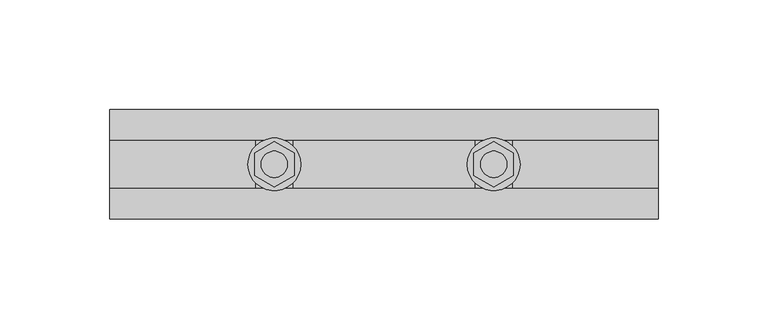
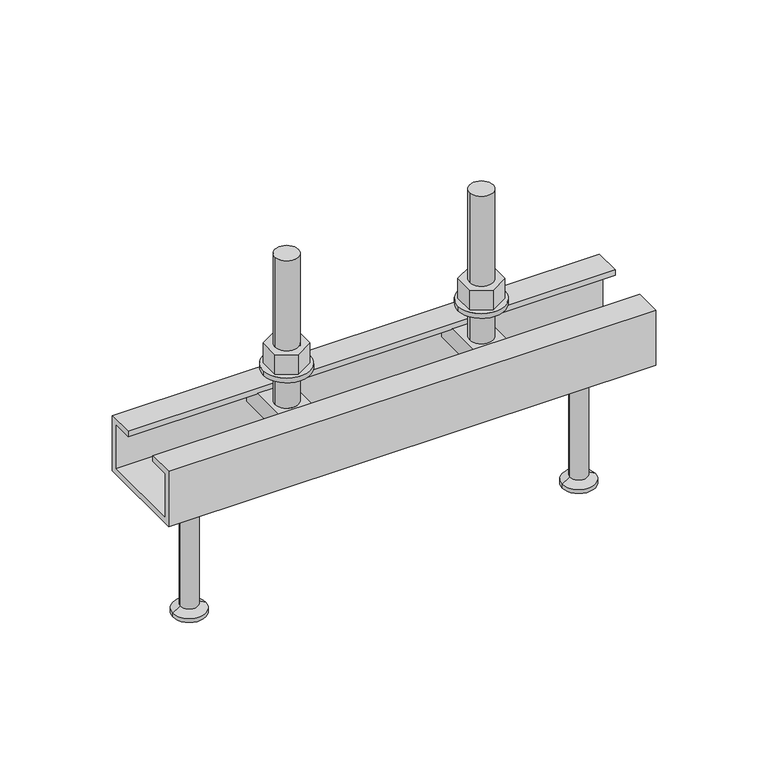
"""IFC4 building model written with IfcOpenShell, lengths in millimetres: fastener geometry, JTA-K JORDAHL® AnchorChannels : JTA-K L=250 mm."""

from ifc_helpers import new_model, si_unit, point, frame, frame_2d, origin, place, context, project, spatial, polyline, circle_curve, trimmed, segment, composite_curve, outline, extrude, source, transform, mapped, element, save
from ifc_brep_helpers import plane_surface, cylinder_surface, revolved_surface, advanced_brep


def fastener_9ad5a3d9(model_context):
    return source(origin(), model_context, "Body", "SolidModel", [
        extrude(outline(polyline([(175.0, -10.3923048), (166.0, -5.1961524), (166.0, 5.1961524), (175.0, 10.3923048), (184.0, 5.1961524), (184.0, -5.1961524), (175.0, -10.3923048)]), holes=[composite_curve([segment(trimmed(circle_curve(frame_2d((175.0, 0.0)), 6.0), [point((169.0, 0.0))], [point((181.0, 0.0))], True, "CARTESIAN"), True, "CONTINUOUS"), segment(trimmed(circle_curve(frame_2d((175.0, 0.0)), 6.0), [point((181.0, 0.0))], [point((169.0, 0.0))], True, "CARTESIAN"), True, "CONTINUOUS")], self_intersect=False)]), frame((0.0, 0.0, 17.5), z_axis=(0.0, 0.0, 1.0), x_axis=(1.0, 0.0, 0.0)), (0.0, 0.0, 1.0), 10.8),
        extrude(outline(composite_curve([segment(trimmed(circle_curve(frame_2d((175.0, 0.0)), 12.0), [point((163.0, 0.0))], [point((187.0, 0.0))], False, "CARTESIAN"), True, "CONTINUOUS"), segment(trimmed(circle_curve(frame_2d((175.0, 0.0)), 12.0), [point((187.0, 0.0))], [point((163.0, 0.0))], False, "CARTESIAN"), True, "CONTINUOUS")], self_intersect=False), holes=[composite_curve([segment(trimmed(circle_curve(frame_2d((175.0, 0.0)), 6.5), [point((168.5, 0.0))], [point((181.5, 0.0))], True, "CARTESIAN"), True, "CONTINUOUS"), segment(trimmed(circle_curve(frame_2d((175.0, 0.0)), 6.5), [point((181.5, 0.0))], [point((168.5, 0.0))], True, "CARTESIAN"), True, "CONTINUOUS")], self_intersect=False)]), frame((0.0, 0.0, 15.0), z_axis=(0.0, 0.0, 1.0), x_axis=(1.0, 0.0, 0.0)), (0.0, 0.0, 1.0), 2.5),
        extrude(outline(polyline([(75.0, -10.3923048), (66.0, -5.1961524), (66.0, 5.1961524), (75.0, 10.3923048), (84.0, 5.1961524), (84.0, -5.1961524), (75.0, -10.3923048)]), holes=[composite_curve([segment(trimmed(circle_curve(frame_2d((75.0, 0.0)), 6.0), [point((69.0, 0.0))], [point((81.0, 0.0))], True, "CARTESIAN"), True, "CONTINUOUS"), segment(trimmed(circle_curve(frame_2d((75.0, 0.0)), 6.0), [point((81.0, 0.0))], [point((69.0, 0.0))], True, "CARTESIAN"), True, "CONTINUOUS")], self_intersect=False)]), frame((0.0, 0.0, 17.5), z_axis=(0.0, 0.0, 1.0), x_axis=(1.0, 0.0, 0.0)), (0.0, 0.0, 1.0), 10.8),
        extrude(outline(composite_curve([segment(trimmed(circle_curve(frame_2d((75.0, 0.0)), 12.0), [point((63.0, 0.0))], [point((87.0, 0.0))], False, "CARTESIAN"), True, "CONTINUOUS"), segment(trimmed(circle_curve(frame_2d((75.0, 0.0)), 12.0), [point((87.0, 0.0))], [point((63.0, 0.0))], False, "CARTESIAN"), True, "CONTINUOUS")], self_intersect=False), holes=[composite_curve([segment(trimmed(circle_curve(frame_2d((75.0, 0.0)), 6.5), [point((68.5, 0.0))], [point((81.5, 0.0))], True, "CARTESIAN"), True, "CONTINUOUS"), segment(trimmed(circle_curve(frame_2d((75.0, 0.0)), 6.5), [point((81.5, 0.0))], [point((68.5, 0.0))], True, "CARTESIAN"), True, "CONTINUOUS")], self_intersect=False)]), frame((0.0, 0.0, 15.0), z_axis=(0.0, 0.0, 1.0), x_axis=(1.0, 0.0, 0.0)), (0.0, 0.0, 1.0), 2.5),
        advanced_brep(
        [(183.5, -20.7, -3.0), (183.5, -20.7, -13.0), (183.5, 20.7, -13.0), (183.5, 20.7, -3.0), (166.5, -20.7, -3.0), (166.5, 20.7, -3.0), (166.5, 20.7, -13.0), (166.5, -20.7, -13.0), (181.0, 0.0, -3.0), (169.0, 0.0, -3.0), (169.0, 0.0, 77.0), (181.0, 0.0, 77.0)],
        [
            (0, 1),
            (1, 2),
            (2, 3),
            (3, 0),
            (4, 5),
            (5, 6),
            (6, 7),
            (7, 4),
            (3, 5),
            (4, 0),
            (8, 9, circle_curve(frame((175.0, 0.0, -3.0), z_axis=(0.0, 0.0, -1.0), x_axis=(1.0, 0.0, 0.0)), 6.0)),
            (9, 8, circle_curve(frame((175.0, 0.0, -3.0), z_axis=(0.0, 0.0, -1.0), x_axis=(1.0, 0.0, 0.0)), 6.0)),
            (2, 6),
            (1, 7),
            (10, 11, circle_curve(frame((175.0, 0.0, 77.0), z_axis=(0.0, 0.0, 1.0), x_axis=(1.0, 0.0, 0.0)), 6.0)),
            (11, 10, circle_curve(frame((175.0, 0.0, 77.0), z_axis=(0.0, 0.0, 1.0), x_axis=(1.0, 0.0, 0.0)), 6.0)),
            (11, 8),
            (9, 10),
        ],
        [
            plane_surface(frame((183.5, 20.7, -3.0), z_axis=(1.0, 0.0, 0.0), x_axis=(0.0, 1.0, 0.0))),
            plane_surface(frame((166.5, 20.7, -3.0), z_axis=(-1.0, 0.0, 0.0), x_axis=(0.0, -1.0, 0.0))),
            plane_surface(frame((183.5, -20.7, -3.0), z_axis=(0.0, 0.0, 1.0), x_axis=(-1.0, 0.0, 0.0))),
            plane_surface(frame((183.5, 20.7, -3.0), z_axis=(0.0, 1.0, 0.0), x_axis=(-1.0, 0.0, 0.0))),
            plane_surface(frame((183.5, 20.7, -13.0), z_axis=(0.0, 0.0, -1.0), x_axis=(-1.0, 0.0, 0.0))),
            plane_surface(frame((183.5, -20.7, -13.0), z_axis=(0.0, -1.0, 0.0), x_axis=(-1.0, 0.0, 0.0))),
            plane_surface(frame((181.0, 0.0, 77.0), z_axis=(0.0, 0.0, 1.0), x_axis=(0.0, -1.0, 0.0))),
            cylinder_surface(frame((175.0, 0.0, -3.0), z_axis=(0.0, 0.0, 1.0), x_axis=(1.0, 0.0, 0.0)), 6.0),
        ],
        [
            (0, [[1, 2, 3, 4]]),
            (1, [[5, 6, 7, 8]]),
            (2, [[9, -5, 10, -4], [11, 12]]),
            (3, [[13, -6, -9, -3]]),
            (4, [[14, -7, -13, -2]]),
            (5, [[-10, -8, -14, -1]]),
            (6, [[15, 16]]),
            (7, [[17, -12, 18, -16]]),
            (7, [[-18, -11, -17, -15]]),
        ],
    ),
        advanced_brep(
        [(83.5, -20.7, -3.0), (83.5, -20.7, -13.0), (83.5, 20.7, -13.0), (83.5, 20.7, -3.0), (66.5, -20.7, -3.0), (66.5, 20.7, -3.0), (66.5, 20.7, -13.0), (66.5, -20.7, -13.0), (81.0, 0.0, -3.0), (69.0, 0.0, -3.0), (69.0, 0.0, 77.0), (81.0, 0.0, 77.0)],
        [
            (0, 1),
            (1, 2),
            (2, 3),
            (3, 0),
            (4, 5),
            (5, 6),
            (6, 7),
            (7, 4),
            (3, 5),
            (4, 0),
            (8, 9, circle_curve(frame((75.0, 0.0, -3.0), z_axis=(0.0, 0.0, -1.0), x_axis=(1.0, 0.0, 0.0)), 6.0)),
            (9, 8, circle_curve(frame((75.0, 0.0, -3.0), z_axis=(0.0, 0.0, -1.0), x_axis=(1.0, 0.0, 0.0)), 6.0)),
            (2, 6),
            (1, 7),
            (10, 11, circle_curve(frame((75.0, 0.0, 77.0), z_axis=(0.0, 0.0, 1.0), x_axis=(1.0, 0.0, 0.0)), 6.0)),
            (11, 10, circle_curve(frame((75.0, 0.0, 77.0), z_axis=(0.0, 0.0, 1.0), x_axis=(1.0, 0.0, 0.0)), 6.0)),
            (11, 8),
            (9, 10),
        ],
        [
            plane_surface(frame((83.5, 20.7, -3.0), z_axis=(1.0, 0.0, 0.0), x_axis=(0.0, 1.0, 0.0))),
            plane_surface(frame((66.5, 20.7, -3.0), z_axis=(-1.0, 0.0, 0.0), x_axis=(0.0, -1.0, 0.0))),
            plane_surface(frame((83.5, -20.7, -3.0), z_axis=(0.0, 0.0, 1.0), x_axis=(-1.0, 0.0, 0.0))),
            plane_surface(frame((83.5, 20.7, -3.0), z_axis=(0.0, 1.0, 0.0), x_axis=(-1.0, 0.0, 0.0))),
            plane_surface(frame((83.5, 20.7, -13.0), z_axis=(0.0, 0.0, -1.0), x_axis=(-1.0, 0.0, 0.0))),
            plane_surface(frame((83.5, -20.7, -13.0), z_axis=(0.0, -1.0, 0.0), x_axis=(-1.0, 0.0, 0.0))),
            plane_surface(frame((81.0, 0.0, 77.0), z_axis=(0.0, 0.0, 1.0), x_axis=(0.0, -1.0, 0.0))),
            cylinder_surface(frame((75.0, 0.0, -3.0), z_axis=(0.0, 0.0, 1.0), x_axis=(1.0, 0.0, 0.0)), 6.0),
        ],
        [
            (0, [[1, 2, 3, 4]]),
            (1, [[5, 6, 7, 8]]),
            (2, [[9, -5, 10, -4], [11, 12]]),
            (3, [[13, -6, -9, -3]]),
            (4, [[14, -7, -13, -2]]),
            (5, [[-10, -8, -14, -1]]),
            (6, [[15, 16]]),
            (7, [[17, -12, 18, -16]]),
            (7, [[-18, -11, -17, -15]]),
        ],
    ),
        advanced_brep(
        [(225.0, 0.0, -30.0), (211.5, 0.0, -30.0), (238.5, 0.0, -30.0), (216.5, 0.0, -100.0), (225.0, 0.0, -100.0), (233.5, 0.0, -100.0), (216.5, 0.0, -98.0), (233.5, 0.0, -98.0), (220.5, 0.0, -95.6905989), (229.5, 0.0, -95.6905989), (220.5, 0.0, -32.5), (229.5, 0.0, -32.5)],
        [
            (0, 1),
            (1, 2, circle_curve(frame((225.0, 0.0, -30.0), z_axis=(0.0, 0.0, 1.0), x_axis=(1.0, 0.0, 0.0)), 13.5)),
            (2, 0),
            (2, 1, circle_curve(frame((225.0, 0.0, -30.0), z_axis=(0.0, 0.0, 1.0), x_axis=(1.0, 0.0, 0.0)), 13.5)),
            (3, 4),
            (4, 5),
            (5, 3, circle_curve(frame((225.0, 0.0, -100.0), z_axis=(0.0, 0.0, -1.0), x_axis=(1.0, 0.0, 0.0)), 8.5)),
            (3, 5, circle_curve(frame((225.0, 0.0, -100.0), z_axis=(0.0, 0.0, -1.0), x_axis=(1.0, 0.0, 0.0)), 8.5)),
            (6, 3),
            (5, 7),
            (7, 6, circle_curve(frame((225.0, 0.0, -98.0), z_axis=(0.0, 0.0, -1.0), x_axis=(1.0, 0.0, 0.0)), 8.5)),
            (6, 7, circle_curve(frame((225.0, 0.0, -98.0), z_axis=(0.0, 0.0, -1.0), x_axis=(1.0, 0.0, 0.0)), 8.5)),
            (8, 6),
            (7, 9),
            (9, 8, circle_curve(frame((225.0, 0.0, -95.6905989), z_axis=(0.0, 0.0, -1.0), x_axis=(1.0, 0.0, 0.0)), 4.5)),
            (8, 9, circle_curve(frame((225.0, 0.0, -95.6905989), z_axis=(0.0, 0.0, -1.0), x_axis=(1.0, 0.0, 0.0)), 4.5)),
            (10, 8),
            (9, 11),
            (11, 10, circle_curve(frame((225.0, 0.0, -32.5), z_axis=(0.0, 0.0, -1.0), x_axis=(1.0, 0.0, 0.0)), 4.5)),
            (10, 11, circle_curve(frame((225.0, 0.0, -32.5), z_axis=(0.0, 0.0, -1.0), x_axis=(1.0, 0.0, 0.0)), 4.5)),
            (1, 10),
            (11, 2),
        ],
        [
            plane_surface(frame((225.0, 0.0, -30.0), z_axis=(0.0, 0.0, 1.0), x_axis=(1.0, 0.0, 0.0))),
            plane_surface(frame((225.0, 0.0, -100.0), z_axis=(0.0, 0.0, -1.0), x_axis=(1.0, 0.0, 0.0))),
            cylinder_surface(frame((225.0, 0.0, 2284.3150031), z_axis=(0.0, 0.0, 1.0), x_axis=(1.0, 0.0, 0.0)), 8.5),
            revolved_surface(polyline([(233.5, 0.0, -98.0), (229.5, 0.0, -95.6905989)]), (225.0, 0.0, 2284.3150031), (0.0, 0.0, 1.0)),
            cylinder_surface(frame((225.0, 0.0, 2284.3150031), z_axis=(0.0, 0.0, 1.0), x_axis=(1.0, 0.0, 0.0)), 4.5),
            revolved_surface(polyline([(229.5, 0.0, -32.5), (238.5, 0.0, -30.0)]), (225.0, 0.0, 2284.3150031), (0.0, 0.0, 1.0)),
        ],
        [
            (0, [[1, 2, 3]]),
            (0, [[-3, 4, -1]]),
            (1, [[5, 6, 7]]),
            (1, [[-6, -5, 8]]),
            (2, [[9, -7, 10, 11]]),
            (2, [[-10, -8, -9, 12]]),
            (3, [[13, -11, 14, 15]]),
            (3, [[-14, -12, -13, 16]]),
            (4, [[17, -15, 18, 19]]),
            (4, [[-18, -16, -17, 20]]),
            (5, [[21, -19, 22, -2]]),
            (5, [[-22, -20, -21, -4]]),
        ],
    ),
        advanced_brep(
        [(25.0, 0.0, -30.0), (11.5, 0.0, -30.0), (38.5, 0.0, -30.0), (16.5, 0.0, -100.0), (25.0, 0.0, -100.0), (33.5, 0.0, -100.0), (16.5, 0.0, -98.0), (33.5, 0.0, -98.0), (20.5, 0.0, -95.6905989), (29.5, 0.0, -95.6905989), (20.5, 0.0, -32.5), (29.5, 0.0, -32.5)],
        [
            (0, 1),
            (1, 2, circle_curve(frame((25.0, 0.0, -30.0), z_axis=(0.0, 0.0, 1.0), x_axis=(1.0, 0.0, 0.0)), 13.5)),
            (2, 0),
            (2, 1, circle_curve(frame((25.0, 0.0, -30.0), z_axis=(0.0, 0.0, 1.0), x_axis=(1.0, 0.0, 0.0)), 13.5)),
            (3, 4),
            (4, 5),
            (5, 3, circle_curve(frame((25.0, 0.0, -100.0), z_axis=(0.0, 0.0, -1.0), x_axis=(1.0, 0.0, 0.0)), 8.5)),
            (3, 5, circle_curve(frame((25.0, 0.0, -100.0), z_axis=(0.0, 0.0, -1.0), x_axis=(1.0, 0.0, 0.0)), 8.5)),
            (6, 3),
            (5, 7),
            (7, 6, circle_curve(frame((25.0, 0.0, -98.0), z_axis=(0.0, 0.0, -1.0), x_axis=(1.0, 0.0, 0.0)), 8.5)),
            (6, 7, circle_curve(frame((25.0, 0.0, -98.0), z_axis=(0.0, 0.0, -1.0), x_axis=(1.0, 0.0, 0.0)), 8.5)),
            (8, 6),
            (7, 9),
            (9, 8, circle_curve(frame((25.0, 0.0, -95.6905989), z_axis=(0.0, 0.0, -1.0), x_axis=(1.0, 0.0, 0.0)), 4.5)),
            (8, 9, circle_curve(frame((25.0, 0.0, -95.6905989), z_axis=(0.0, 0.0, -1.0), x_axis=(1.0, 0.0, 0.0)), 4.5)),
            (10, 8),
            (9, 11),
            (11, 10, circle_curve(frame((25.0, 0.0, -32.5), z_axis=(0.0, 0.0, -1.0), x_axis=(1.0, 0.0, 0.0)), 4.5)),
            (10, 11, circle_curve(frame((25.0, 0.0, -32.5), z_axis=(0.0, 0.0, -1.0), x_axis=(1.0, 0.0, 0.0)), 4.5)),
            (1, 10),
            (11, 2),
        ],
        [
            plane_surface(frame((25.0, 0.0, -30.0), z_axis=(0.0, 0.0, 1.0), x_axis=(1.0, 0.0, 0.0))),
            plane_surface(frame((25.0, 0.0, -100.0), z_axis=(0.0, 0.0, -1.0), x_axis=(1.0, 0.0, 0.0))),
            cylinder_surface(frame((25.0, 0.0, 2284.3150031), z_axis=(0.0, 0.0, 1.0), x_axis=(1.0, 0.0, 0.0)), 8.5),
            revolved_surface(polyline([(33.5, 0.0, -98.0), (29.5, 0.0, -95.6905989)]), (25.0, 0.0, 2284.3150031), (0.0, 0.0, 1.0)),
            cylinder_surface(frame((25.0, 0.0, 2284.3150031), z_axis=(0.0, 0.0, 1.0), x_axis=(1.0, 0.0, 0.0)), 4.5),
            revolved_surface(polyline([(29.5, 0.0, -32.5), (38.5, 0.0, -30.0)]), (25.0, 0.0, 2284.3150031), (0.0, 0.0, 1.0)),
        ],
        [
            (0, [[1, 2, 3]]),
            (0, [[-3, 4, -1]]),
            (1, [[5, 6, 7]]),
            (1, [[-6, -5, 8]]),
            (2, [[9, -7, 10, 11]]),
            (2, [[-10, -8, -9, 12]]),
            (3, [[13, -11, 14, 15]]),
            (3, [[-14, -12, -13, 16]]),
            (4, [[17, -15, 18, 19]]),
            (4, [[-18, -16, -17, 20]]),
            (5, [[21, -19, 22, -2]]),
            (5, [[-22, -20, -21, -4]]),
        ],
    ),
        extrude(outline(polyline([(-25.0, 0.0), (-11.0, 0.0), (-11.0, -3.0), (-22.0, -3.0), (-22.0, -27.0), (22.0, -27.0), (22.0, -3.0), (11.0, -3.0), (11.0, 0.0), (25.0, 0.0), (25.0, -30.0), (-25.0, -30.0), (-25.0, 0.0)])), frame((0.0, 0.0, 0.0), z_axis=(1.0, 0.0, 0.0), x_axis=(0.0, 1.0, 0.0)), (0.0, 0.0, 1.0), 250.0),
    ])


if __name__ == "__main__":
    model = new_model("IFC4")
    model_context = context("Model", 3, world=origin())
    ifc_project = project(units=[si_unit("LENGTHUNIT", "METRE", prefix="MILLI")], contexts=[model_context])
    site = spatial("IfcSite", under=ifc_project)
    building = spatial("IfcBuilding", under=site)
    placement = place(None, origin())
    fastener_shape = fastener_9ad5a3d9(model_context)
    element("IfcFastener", 1, ObjectType="JTA-K JORDAHL® AnchorChannels : JTA-K L=250 mm", at=placement, inside=building, context=model_context, shape_type="MappedRepresentation", body=[
        mapped(fastener_shape, transform((0.0, 0.0, 0.0), x_axis=(1.0, 0.0, 0.0), y_axis=(0.0, 1.0, 0.0), z_axis=(0.0, 0.0, 1.0))),
    ])
    save(model, "model.ifc")
